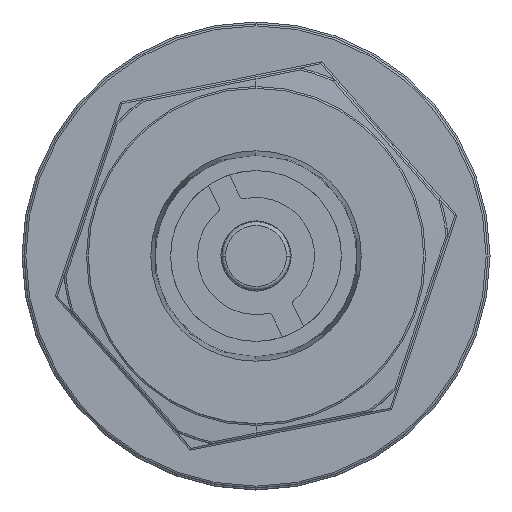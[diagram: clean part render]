
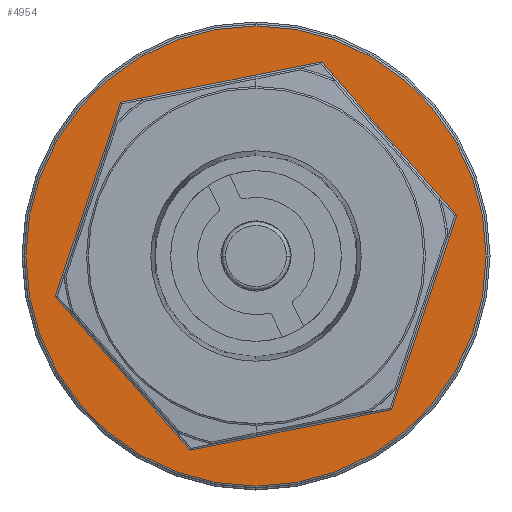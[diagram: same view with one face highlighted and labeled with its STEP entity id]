
A CAD part, left-side view. The second image highlights one B-rep face of the part: STEP entity #4954.
In plain terms, the highlighted planar face has unit normal (-1, 0, 0).
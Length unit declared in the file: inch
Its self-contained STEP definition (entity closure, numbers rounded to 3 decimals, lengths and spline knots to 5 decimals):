
#27 = CARTESIAN_POINT ( 'NONE',  ( -0.635, 0.16765, -0.49792 ) ) ;
#39 = DIRECTION ( 'NONE',  ( -1., 0., 0. ) ) ;
#206 = VERTEX_POINT ( 'NONE', #3240 ) ;
#250 = ORIENTED_EDGE ( 'NONE', *, *, #568, .T. ) ;
#261 = ORIENTED_EDGE ( 'NONE', *, *, #3095, .T. ) ;
#289 = ORIENTED_EDGE ( 'NONE', *, *, #6822, .T. ) ;
#568 = EDGE_CURVE ( 'NONE', #2613, #2678, #5149, .T. ) ;
#578 = VECTOR ( 'NONE', #3362, 39.37008 ) ;
#782 = ORIENTED_EDGE ( 'NONE', *, *, #7854, .T. ) ;
#1040 = DIRECTION ( 'NONE',  ( 0., -0.661, -0.75 ) ) ;
#1125 = PLANE ( 'NONE',  #6220 ) ;
#1231 = CARTESIAN_POINT ( 'NONE',  ( -0.635, 0.16482, -0.49735 ) ) ;
#1507 = ORIENTED_EDGE ( 'NONE', *, *, #3701, .T. ) ;
#1558 = ORIENTED_EDGE ( 'NONE', *, *, #3536, .T. ) ;
#1771 = EDGE_CURVE ( 'NONE', #2678, #3850, #7422, .T. ) ;
#1827 = CARTESIAN_POINT ( 'NONE',  ( -0.635, -0.51504, 0.10377 ) ) ;
#1838 = LINE ( 'NONE', #7312, #578 ) ;
#1842 = FACE_OUTER_BOUND ( 'NONE', #3091, .T. ) ;
#1925 = CARTESIAN_POINT ( 'NONE',  ( -0.635, 0., 0. ) ) ;
#2613 = VERTEX_POINT ( 'NONE', #1827 ) ;
#2615 = CARTESIAN_POINT ( 'NONE',  ( -0.635, -0.16765, 0.49792 ) ) ;
#2678 = VERTEX_POINT ( 'NONE', #6492 ) ;
#3091 = EDGE_LOOP ( 'NONE', ( #1507, #261 ) ) ;
#3095 = EDGE_CURVE ( 'NONE', #6316, #5593, #6536, .T. ) ;
#3240 = CARTESIAN_POINT ( 'NONE',  ( -0.635, 0.34739, 0.39415 ) ) ;
#3353 = VERTEX_POINT ( 'NONE', #5025 ) ;
#3362 = DIRECTION ( 'NONE',  ( 0., -0.98, 0.198 ) ) ;
#3395 = VECTOR ( 'NONE', #8134, 39.37008 ) ;
#3517 = DIRECTION ( 'NONE',  ( 0., -0.319, 0.948 ) ) ;
#3536 = EDGE_CURVE ( 'NONE', #206, #8776, #1838, .T. ) ;
#3701 = EDGE_CURVE ( 'NONE', #5593, #6316, #5021, .T. ) ;
#3732 = AXIS2_PLACEMENT_3D ( 'NONE', #1925, #6682, #8153 ) ;
#3850 = VERTEX_POINT ( 'NONE', #27 ) ;
#4168 = ORIENTED_EDGE ( 'NONE', *, *, #4524, .T. ) ;
#4380 = EDGE_LOOP ( 'NONE', ( #5504, #782, #289, #1558, #4168, #250 ) ) ;
#4455 = CARTESIAN_POINT ( 'NONE',  ( -0.635, -0.51313, 0.10593 ) ) ;
#4524 = EDGE_CURVE ( 'NONE', #8776, #2613, #7859, .T. ) ;
#4542 = DIRECTION ( 'NONE',  ( 0., 0., 1. ) ) ;
#4587 = CARTESIAN_POINT ( 'NONE',  ( -0.635, 0., 0. ) ) ;
#4954 = ADVANCED_FACE ( 'NONE', ( #7769, #1842 ), #1125, .T. ) ;
#5021 = CIRCLE ( 'NONE', #3732, 0.59 ) ;
#5025 = CARTESIAN_POINT ( 'NONE',  ( -0.635, 0.51504, -0.10377 ) ) ;
#5149 = LINE ( 'NONE', #7168, #7797 ) ;
#5256 = DIRECTION ( 'NONE',  ( -1., 0., 0. ) ) ;
#5504 = ORIENTED_EDGE ( 'NONE', *, *, #1771, .T. ) ;
#5564 = DIRECTION ( 'NONE',  ( 0., 0., 1. ) ) ;
#5593 = VERTEX_POINT ( 'NONE', #8039 ) ;
#5637 = CARTESIAN_POINT ( 'NONE',  ( -0.635, 0.51313, -0.10593 ) ) ;
#6157 = LINE ( 'NONE', #8315, #7562 ) ;
#6220 = AXIS2_PLACEMENT_3D ( 'NONE', #4587, #5256, #4542 ) ;
#6235 = CARTESIAN_POINT ( 'NONE',  ( -0.635, 0., 0. ) ) ;
#6316 = VERTEX_POINT ( 'NONE', #7356 ) ;
#6492 = CARTESIAN_POINT ( 'NONE',  ( -0.635, -0.34739, -0.39415 ) ) ;
#6498 = DIRECTION ( 'NONE',  ( 0., 0.319, -0.948 ) ) ;
#6536 = CIRCLE ( 'NONE', #7543, 0.59 ) ;
#6682 = DIRECTION ( 'NONE',  ( -1., 0., 0. ) ) ;
#6822 = EDGE_CURVE ( 'NONE', #3353, #206, #6157, .T. ) ;
#7025 = DIRECTION ( 'NONE',  ( 0., 0.661, 0.75 ) ) ;
#7168 = CARTESIAN_POINT ( 'NONE',  ( -0.635, -0.34831, -0.39142 ) ) ;
#7312 = CARTESIAN_POINT ( 'NONE',  ( -0.635, -0.16482, 0.49735 ) ) ;
#7356 = CARTESIAN_POINT ( 'NONE',  ( -0.635, 0., -0.59 ) ) ;
#7422 = LINE ( 'NONE', #1231, #3395 ) ;
#7504 = VECTOR ( 'NONE', #7025, 39.37008 ) ;
#7543 = AXIS2_PLACEMENT_3D ( 'NONE', #6235, #39, #5564 ) ;
#7562 = VECTOR ( 'NONE', #3517, 39.37008 ) ;
#7769 = FACE_BOUND ( 'NONE', #4380, .T. ) ;
#7787 = VECTOR ( 'NONE', #1040, 39.37008 ) ;
#7797 = VECTOR ( 'NONE', #6498, 39.37008 ) ;
#7854 = EDGE_CURVE ( 'NONE', #3850, #3353, #8552, .T. ) ;
#7859 = LINE ( 'NONE', #4455, #7787 ) ;
#8039 = CARTESIAN_POINT ( 'NONE',  ( -0.635, 0., 0.59 ) ) ;
#8134 = DIRECTION ( 'NONE',  ( 0., 0.98, -0.198 ) ) ;
#8153 = DIRECTION ( 'NONE',  ( 0., 0., 1. ) ) ;
#8315 = CARTESIAN_POINT ( 'NONE',  ( -0.635, 0.34831, 0.39142 ) ) ;
#8552 = LINE ( 'NONE', #5637, #7504 ) ;
#8776 = VERTEX_POINT ( 'NONE', #2615 ) ;
